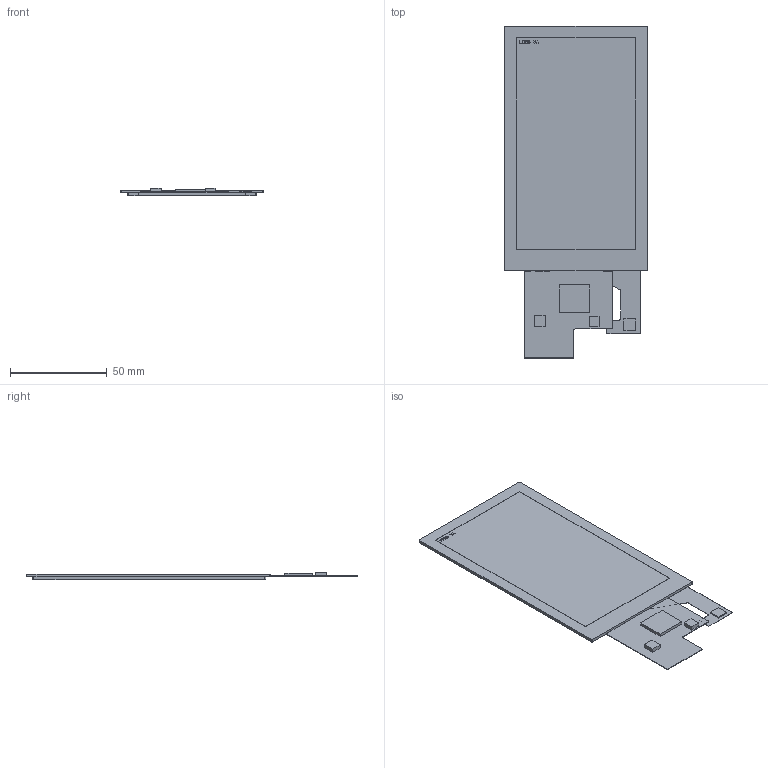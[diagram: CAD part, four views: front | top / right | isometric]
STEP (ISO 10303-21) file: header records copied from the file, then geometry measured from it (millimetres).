
FILE_DESCRIPTION((''),'2;1');
FILE_NAME('DMG85480F050_01WTC','2021-12-02T',('Administrator'),(''),'PRO/ENGINEER BY PARAMETRIC TECHNOLOGY CORPORATION, 2014320','PRO/ENGINEER BY PARAMETRIC TECHNOLOGY CORPORATION, 2014320','');
FILE_SCHEMA(('CONFIG_CONTROL_DESIGN','SHAPE_APPEARANCE_LAYERS_GROUPS'));
Length unit declared in the file: millimetre
Products named in the file (1): DMG85480F050_01WTC
Bounding box: 73.33 x 171.17 x 4.06 mm (x, y, z)
Volume: 26437.1 mm3; surface area: 24524.3 mm2
Topology: 1 solids, 1 shells, 202 faces, 558 edges, 372 vertices
Faces by surface type: plane 185, cylinder 17
Entity records: 6435 total; most frequent: CARTESIAN_POINT 1132, ORIENTED_EDGE 1116, DIRECTION 997, EDGE_CURVE 558, VECTOR 523, LINE 523, VERTEX_POINT 372, AXIS2_PLACEMENT_3D 237
